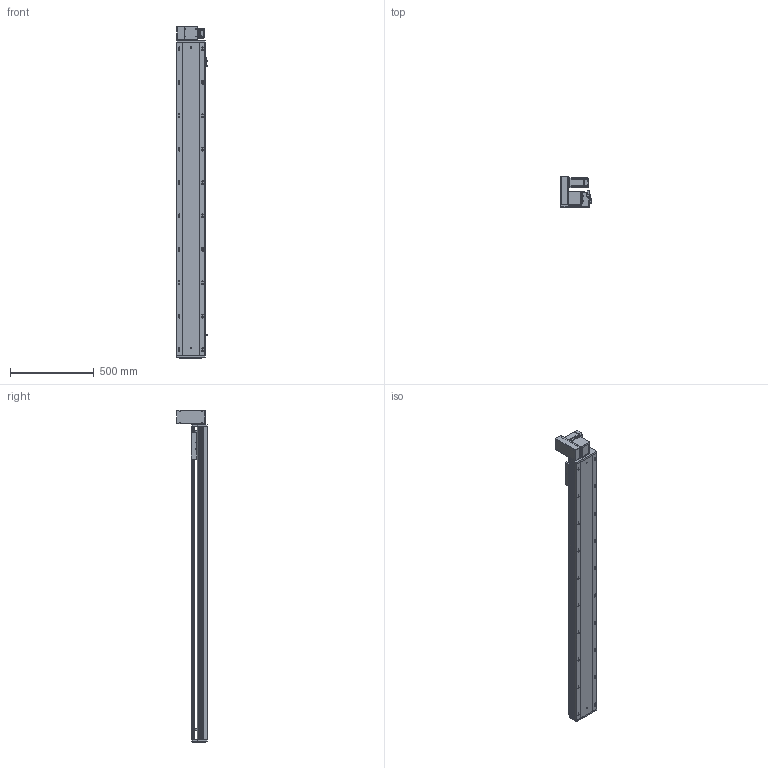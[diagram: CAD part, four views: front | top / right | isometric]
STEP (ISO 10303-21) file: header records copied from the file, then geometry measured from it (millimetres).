
FILE_DESCRIPTION (( 'STEP AP203' ), '1' );
FILE_NAME ('RY170-T-300-UL-P400W.SLDASM_1600.step', '2021-03-02T02:13:44', ( '盈信电脑' ), ( '东莞市道滘镇水果街19号' ), 'SwSTEP 2.0', 'SolidWorks 2012', '' );
FILE_SCHEMA (( 'CONFIG_CONTROL_DESIGN' ));
Products named in the file (18): RY170-T-300-UL-P400W.SLDASM_1600; 15; RY170-T蹟翐M4; RY170同步轮电机安装板(400W); RY120-T主同步轮轴承压盖; RY170肮祭謫萇儂欶; 滅袉蝶18-10; RY170-T肮祭謫裔啣; RY170肮祭謫ヶ裔啣; RY170-T肮祭湍揤踡輸2; RY170翋肮祭謫釱; RY170-T肮祭湍揤踡輸1; RY170-T-300肮祭謫倰第裔啣-DL_1600; 覜茼ん672; RY170外置感应片(200共用）; RY170綴裔啣; RY170肮祭湍臏賑輸; RY170-T-300肮祭謫倰第菁釱-DL_1600
Assembly tree (20 placements, depth 2):
  RY170-T-300-UL-P400W.SLDASM_1600
    RY170-T-300肮祭謫倰第菁釱-DL_1600
    RY170肮祭湍臏賑輸
    RY170-T-300肮祭謫倰第裔啣-DL_1600
    RY170綴裔啣
    覜茼ん672  x3
    RY170外置感应片(200共用）
    RY170肮祭謫ヶ裔啣
    RY170翋肮祭謫釱
    RY170-T肮祭湍揤踡輸1
    RY170-T肮祭湍揤踡輸2
    RY170-T肮祭謫裔啣
    滅袉蝶18-10  x2
    RY120-T主同步轮轴承压盖
    RY170肮祭謫萇儂欶
    RY170同步轮电机安装板(400W)
    RY170-T蹟翐M4
    15
Bounding box: 183.7 x 184 x 1988 mm (x, y, z)
Volume: 9380862.9 mm3; surface area: 3208210.2 mm2
Topology: 20 solids, 20 shells, 2729 faces, 7650 edges, 4875 vertices
Faces by surface type: cylinder 1268, plane 1151, cone 280, bspline 30
Entity records: 87624 total; most frequent: CARTESIAN_POINT 19981, ORIENTED_EDGE 13856, DIRECTION 13560, EDGE_CURVE 6928, AXIS2_PLACEMENT_3D 4796, VERTEX_POINT 4543, VECTOR 3968, LINE 3968
